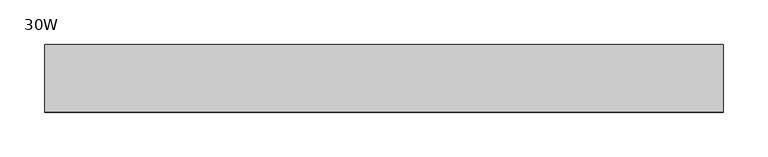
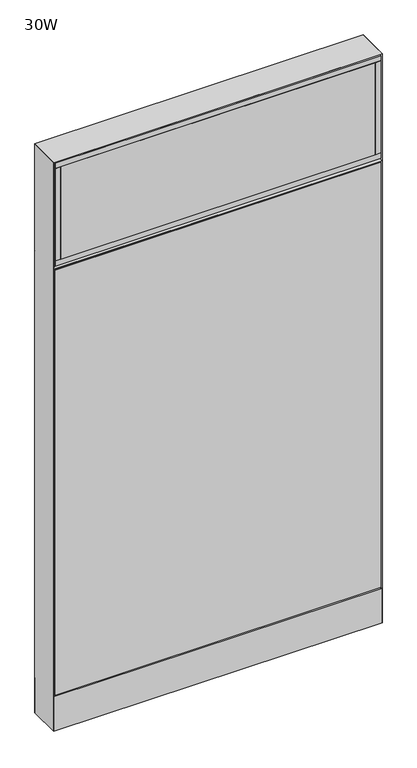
"""IFC4 building model written with IfcOpenShell, lengths in millimetres: furniture geometry, Steelcase - Montage - Frame - 55H - Enhanced Monolithic - Base Cavity : 30W."""

from ifc_helpers import new_model, si_unit, point, frame, frame_2d, origin, origin_with_axes, place, context, project, spatial, polyline, circle_curve, trimmed, segment, composite_curve, outline, extrude, faceted_brep, source, transform, mapped, element, save


def furniture_30w_8d8b913a(model_context):
    return source(origin(), model_context, "Body", "SolidModel", [
        faceted_brep([(762.0, 38.1026297, 1136.65), (0.0, 38.1026297, 1136.65), (6.3499953, 31.7526299, 1142.9999997), (755.6500083, 31.7526299, 1142.9999997), (755.6500083, 31.7526299, 1130.3000003), (6.3499953, 31.7526299, 1130.3000003)], [[[0, 1, 2, 3]], [[1, 0, 4, 5]], [[3, 2, 5, 4]], [[0, 3, 4]], [[2, 1, 5]]]),
        extrude(outline(polyline([(15.875, 38.1000015), (746.125, 38.1000015), (746.125, 31.7500017), (15.875, 31.7500017), (15.875, 38.1000015)])), frame((0.0, 0.0, 1156.49375), z_axis=(0.0, 0.0, 1.0), x_axis=(1.0, 0.0, 0.0)), (0.0, 0.0, 1.0), 226.21875),
        extrude(outline(polyline([(15.875, -31.7499985), (746.125, -31.7499985), (746.125, -38.1000015), (15.875, -38.1000015), (15.875, -31.7499985)])), frame((0.0, 0.0, 1156.49375), z_axis=(0.0, 0.0, 1.0), x_axis=(1.0, 0.0, 0.0)), (0.0, 0.0, 1.0), 226.21875),
        extrude(outline(polyline([(3.175, -38.1000015), (3.175, 38.1000015), (15.875, 38.1000015), (15.875, -38.1000015), (3.175, -38.1000015)])), frame((0.0, 0.0, 1156.49375), z_axis=(0.0, 0.0, 1.0), x_axis=(1.0, 0.0, 0.0)), (0.0, 0.0, 1.0), 226.21875),
        extrude(outline(polyline([(746.125, -38.1000015), (746.125, 38.1000015), (758.825, 38.1000015), (758.825, -38.1000015), (746.125, -38.1000015)])), frame((0.0, 0.0, 1156.49375), z_axis=(0.0, 0.0, 1.0), x_axis=(1.0, 0.0, 0.0)), (0.0, 0.0, 1.0), 226.21875),
        extrude(outline(polyline([(3.175, -38.1000015), (3.175, 38.1000015), (758.825, 38.1000015), (758.825, -38.1000015), (3.175, -38.1000015)])), frame((0.0, 0.0, 1143.79375), z_axis=(0.0, 0.0, 1.0), x_axis=(1.0, 0.0, 0.0)), (0.0, 0.0, 1.0), 12.7),
        extrude(outline(polyline([(3.175, -38.1000015), (3.175, 38.1000015), (758.825, 38.1000015), (758.825, -38.1000015), (3.175, -38.1000015)])), frame((0.0, 0.0, 1382.7125), z_axis=(0.0, 0.0, 1.0), x_axis=(1.0, 0.0, 0.0)), (0.0, 0.0, 1.0), 12.7),
        extrude(outline(polyline([(758.825, 31.7500194), (3.175, 31.7500194), (3.175, 38.1000194), (758.825, 38.1000194), (758.825, 31.7500194)])), frame((0.0, 0.0, 92.075), z_axis=(0.0, 0.0, 1.0), x_axis=(1.0, 0.0, 0.0)), (0.0, 0.0, 1.0), 1041.4),
        faceted_brep([(-5.4e-06, 38.102627, 1136.6500027), (6.3499917, 31.7526299, 1142.9999997), (755.6500047, 31.7526299, 1142.9999997), (762.0, 38.1026253, 1136.6500044), (755.6500047, 31.7526299, 1130.3000003), (6.3499917, 31.7526299, 1130.3000003)], [[[0, 1, 2, 3]], [[3, 4, 5, 0]], [[1, 5, 4, 2]], [[0, 5, 1]], [[2, 4, 3]]]),
        extrude(outline(polyline([(746.125, 38.1000015), (746.125, 31.7500017), (15.875, 31.7500017), (15.875, 38.1000015), (746.125, 38.1000015)])), frame((0.0, 0.0, 1156.49375), z_axis=(0.0, 0.0, 1.0), x_axis=(1.0, 0.0, 0.0)), (0.0, 0.0, 1.0), 226.21875),
        extrude(outline(polyline([(746.125, -31.7499985), (746.125, -38.1000015), (15.875, -38.1000015), (15.875, -31.7499985), (746.125, -31.7499985)])), frame((0.0, 0.0, 1156.49375), z_axis=(0.0, 0.0, 1.0), x_axis=(1.0, 0.0, 0.0)), (0.0, 0.0, 1.0), 226.21875),
        extrude(outline(polyline([(758.825, -38.1000015), (746.125, -38.1000015), (746.125, 38.1000015), (758.825, 38.1000015), (758.825, -38.1000015)])), frame((0.0, 0.0, 1156.49375), z_axis=(0.0, 0.0, 1.0), x_axis=(1.0, 0.0, 0.0)), (0.0, 0.0, 1.0), 226.21875),
        extrude(outline(polyline([(15.875, -38.1000015), (3.175, -38.1000015), (3.175, 38.1000015), (15.875, 38.1000015), (15.875, -38.1000015)])), frame((0.0, 0.0, 1156.49375), z_axis=(0.0, 0.0, 1.0), x_axis=(1.0, 0.0, 0.0)), (0.0, 0.0, 1.0), 226.21875),
        extrude(outline(polyline([(758.825, -38.1000015), (3.175, -38.1000015), (3.175, 38.1000015), (758.825, 38.1000015), (758.825, -38.1000015)])), frame((0.0, 0.0, 1143.79375), z_axis=(0.0, 0.0, 1.0), x_axis=(1.0, 0.0, 0.0)), (0.0, 0.0, 1.0), 12.7),
        extrude(outline(polyline([(758.825, -38.1000015), (3.175, -38.1000015), (3.175, 38.1000015), (758.825, 38.1000015), (758.825, -38.1000015)])), frame((0.0, 0.0, 1382.7125), z_axis=(0.0, 0.0, 1.0), x_axis=(1.0, 0.0, 0.0)), (0.0, 0.0, 1.0), 12.7),
        extrude(outline(polyline([(3.175, 31.7500194), (3.175, 38.1000194), (758.825, 38.1000194), (758.825, 31.7500194), (3.175, 31.7500194)])), frame((0.0, 0.0, 92.075), z_axis=(0.0, 0.0, 1.0), x_axis=(1.0, 0.0, 0.0)), (0.0, 0.0, 1.0), 1041.4),
        faceted_brep([(6.3499917, -31.7526299, 1142.9999997), (755.6500047, -31.7526299, 1142.9999997), (755.6500047, -31.7526299, 1130.3000003), (6.3499917, -31.7526299, 1130.3000003), (-5.4e-06, -38.102627, 1136.6500027), (762.0, -38.1026253, 1136.6500044)], [[[0, 1, 2, 3]], [[4, 0, 3]], [[1, 5, 2]], [[4, 5, 1, 0]], [[5, 4, 3, 2]]]),
        extrude(outline(polyline([(746.125, -38.1000015), (15.875, -38.1000015), (15.875, -31.7500017), (746.125, -31.7500017), (746.125, -38.1000015)])), frame((0.0, 0.0, 1156.49375), z_axis=(0.0, 0.0, 1.0), x_axis=(1.0, 0.0, 0.0)), (0.0, 0.0, 1.0), 226.21875),
        extrude(outline(polyline([(746.125, 31.7499985), (15.875, 31.7499985), (15.875, 38.1000015), (746.125, 38.1000015), (746.125, 31.7499985)])), frame((0.0, 0.0, 1156.49375), z_axis=(0.0, 0.0, 1.0), x_axis=(1.0, 0.0, 0.0)), (0.0, 0.0, 1.0), 226.21875),
        extrude(outline(polyline([(758.825, 38.1000015), (758.825, -38.1000015), (746.125, -38.1000015), (746.125, 38.1000015), (758.825, 38.1000015)])), frame((0.0, 0.0, 1156.49375), z_axis=(0.0, 0.0, 1.0), x_axis=(1.0, 0.0, 0.0)), (0.0, 0.0, 1.0), 226.21875),
        extrude(outline(polyline([(15.875, 38.1000015), (15.875, -38.1000015), (3.175, -38.1000015), (3.175, 38.1000015), (15.875, 38.1000015)])), frame((0.0, 0.0, 1156.49375), z_axis=(0.0, 0.0, 1.0), x_axis=(1.0, 0.0, 0.0)), (0.0, 0.0, 1.0), 226.21875),
        extrude(outline(polyline([(758.825, 38.1000015), (758.825, -38.1000015), (3.175, -38.1000015), (3.175, 38.1000015), (758.825, 38.1000015)])), frame((0.0, 0.0, 1143.79375), z_axis=(0.0, 0.0, 1.0), x_axis=(1.0, 0.0, 0.0)), (0.0, 0.0, 1.0), 12.7),
        extrude(outline(polyline([(758.825, 38.1000015), (758.825, -38.1000015), (3.175, -38.1000015), (3.175, 38.1000015), (758.825, 38.1000015)])), frame((0.0, 0.0, 1382.7125), z_axis=(0.0, 0.0, 1.0), x_axis=(1.0, 0.0, 0.0)), (0.0, 0.0, 1.0), 12.7),
        extrude(outline(polyline([(3.175, -31.7500194), (758.825, -31.7500194), (758.825, -38.1000194), (3.175, -38.1000194), (3.175, -31.7500194)])), frame((0.0, 0.0, 92.075), z_axis=(0.0, 0.0, 1.0), x_axis=(1.0, 0.0, 0.0)), (0.0, 0.0, 1.0), 1041.4),
        extrude(outline(polyline([(6.350003, -31.7499985), (755.649997, -31.7499985), (762.0, -38.1000015), (0.0, -38.1000015), (6.350003, -31.7499985)])), frame((0.0, 0.0, 4.064), z_axis=(0.0, 0.0, 1.0), x_axis=(1.0, 0.0, 0.0)), (0.0, 0.0, 1.0), 84.835997),
        extrude(outline(polyline([(6.3500002, 31.7500017), (0.0, 38.1000015), (762.0, 38.1000015), (755.6500002, 31.7500017), (6.3500002, 31.7500017)])), frame((0.0, 0.0, 4.064), z_axis=(0.0, 0.0, 1.0), x_axis=(1.0, 0.0, 0.0)), (0.0, 0.0, 1.0), 84.835997),
        faceted_brep([(762.0, -38.1000015, 1398.5875), (0.0, -38.1000015, 1398.5875), (6.3500484, -31.749953, 1392.2374516), (755.6499516, -31.749953, 1392.2374516), (6.3500484, 31.749953, 1392.2374516), (755.6499516, 31.749953, 1392.2374516), (0.0, 38.1000015, 1398.5875), (762.0, 38.1000015, 1398.5875)], [[[0, 1, 2, 3]], [[3, 2, 4, 5]], [[6, 7, 5, 4]], [[1, 0, 7, 6]], [[2, 1, 6, 4]], [[0, 3, 5, 7]]]),
        extrude(outline(composite_curve([segment(trimmed(circle_curve(frame_2d((44.45, 0.0)), 15.24), [point((29.21, 0.0))], [point((59.69, 0.0))], False, "CARTESIAN"), True, "CONTINUOUS"), segment(trimmed(circle_curve(frame_2d((44.45, 0.0)), 15.24), [point((59.69, 0.0))], [point((29.21, 0.0))], False, "CARTESIAN"), True, "CONTINUOUS")], self_intersect=False)), origin_with_axes(), (0.0, 0.0, 1.0), 4.064),
        extrude(outline(composite_curve([segment(trimmed(circle_curve(frame_2d((717.55, 0.0)), 15.24), [point((702.31, 0.0))], [point((732.79, 0.0))], False, "CARTESIAN"), True, "CONTINUOUS"), segment(trimmed(circle_curve(frame_2d((717.55, 0.0)), 15.24), [point((732.79, 0.0))], [point((702.31, 0.0))], False, "CARTESIAN"), True, "CONTINUOUS")], self_intersect=False)), origin_with_axes(), (0.0, 0.0, 1.0), 4.064),
        faceted_brep([(762.0, -38.1000106, 4.064), (762.0, 38.1000015, 4.064), (762.0, 38.1000015, 1398.5875), (762.0, -38.1000106, 1398.5874637), (0.0, 38.1000015, 4.064), (0.0, -38.1000015, 4.064), (0.0, -38.1000015, 1398.5875), (0.0, 38.1000015, 1398.5875), (755.6499879, 31.7500017, 606.425), (6.35, 31.7500017, 606.425), (6.3499998, 31.7500017, 619.125), (755.6499879, 31.7500017, 619.125), (6.35, -31.7499985, 619.125), (755.6499879, -31.7499985, 619.125), (6.350003, -31.7499985, 606.425), (755.6499879, -31.7499985, 606.425), (6.35, 31.7500015, 4.064), (6.35, -31.7500015, 4.064), (755.6499879, 31.7499894, 4.064), (755.6499879, -31.7499985, 4.064), (6.35, 31.7500015, 1392.2375), (6.35, -31.7500015, 1392.2375), (755.6499879, -31.7499985, 1392.2374516), (755.6499879, 31.7499895, 1392.2374516)], [[[0, 1, 2, 3]], [[4, 5, 6, 7]], [[8, 9, 10, 11]], [[11, 10, 12, 13]], [[13, 12, 14, 15]], [[9, 8, 15, 14]], [[16, 17, 5, 4]], [[18, 1, 0, 19]], [[16, 4, 7, 20, 10, 9]], [[5, 17, 14, 12, 21, 6]], [[12, 10, 20, 21]], [[17, 16, 9, 14]], [[11, 13, 22, 23]], [[18, 19, 15, 8]], [[19, 0, 3, 22, 13, 15]], [[1, 18, 8, 11, 23, 2]], [[7, 6, 21, 20]], [[3, 2, 23, 22]]]),
    ])


if __name__ == "__main__":
    model = new_model("IFC4")
    model_context = context("Model", 3, world=origin())
    ifc_project = project(units=[si_unit("LENGTHUNIT", "METRE", prefix="MILLI")], contexts=[model_context])
    site = spatial("IfcSite", under=ifc_project)
    building = spatial("IfcBuilding", under=site)
    placement = place(None, origin())
    furniture_30w_shape = furniture_30w_8d8b913a(model_context)
    element("IfcFurniture", 1, ObjectType="Steelcase - Montage - Frame - 55H - Enhanced Monolithic - Base Cavity : 30W", at=placement, inside=building, context=model_context, shape_type="MappedRepresentation", body=[
        mapped(furniture_30w_shape, transform((0.0, 0.0, 0.0), x_axis=(1.0, 0.0, 0.0), y_axis=(0.0, 1.0, 0.0), z_axis=(0.0, 0.0, 1.0))),
    ])
    save(model, "model.ifc")
